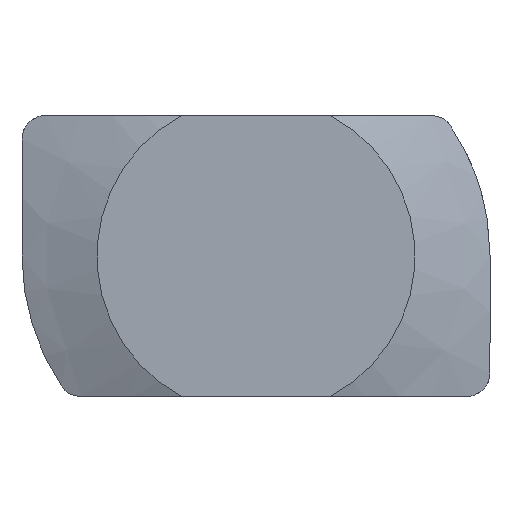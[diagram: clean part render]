
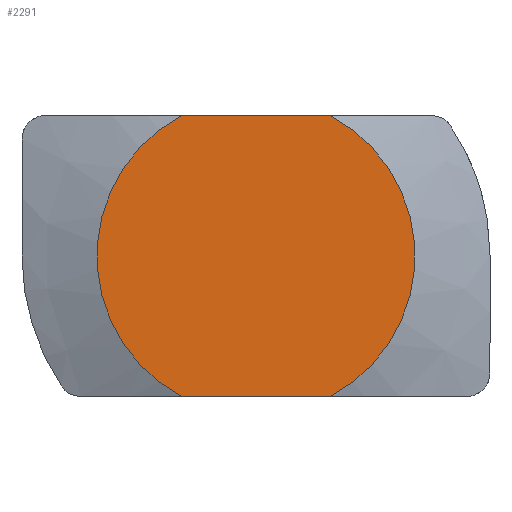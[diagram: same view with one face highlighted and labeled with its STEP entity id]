
A CAD part, front view. The second image highlights one B-rep face of the part: STEP entity #2291.
In plain terms, the highlighted planar face has unit normal (0, -1, 0).
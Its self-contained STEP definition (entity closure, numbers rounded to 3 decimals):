
#24 = CARTESIAN_POINT ( 'NONE',  ( -1.593, 0., 3. ) ) ;
#30 = DIRECTION ( 'NONE',  ( -1., 0., 0. ) ) ;
#103 = EDGE_CURVE ( 'NONE', #278, #3340, #2280, .T. ) ;
#258 = DIRECTION ( 'NONE',  ( 0., 0., 1. ) ) ;
#278 = VERTEX_POINT ( 'NONE', #24 ) ;
#307 = DIRECTION ( 'NONE',  ( 0., 0., 1. ) ) ;
#390 = CARTESIAN_POINT ( 'NONE',  ( -5., 0., -3. ) ) ;
#579 = DIRECTION ( 'NONE',  ( 0., 0., -1. ) ) ;
#617 = DIRECTION ( 'NONE',  ( 0., 1., 0. ) ) ;
#622 = VECTOR ( 'NONE', #1553, 1000. ) ;
#668 = DIRECTION ( 'NONE',  ( 0., 1., 0. ) ) ;
#719 = ORIENTED_EDGE ( 'NONE', *, *, #2247, .F. ) ;
#754 = LINE ( 'NONE', #390, #1020 ) ;
#856 = AXIS2_PLACEMENT_3D ( 'NONE', #981, #617, #258 ) ;
#949 = DIRECTION ( 'NONE',  ( 0., -1., 0. ) ) ;
#981 = CARTESIAN_POINT ( 'NONE',  ( 0., 0., 0. ) ) ;
#1001 = CARTESIAN_POINT ( 'NONE',  ( 1.593, 0., -3. ) ) ;
#1020 = VECTOR ( 'NONE', #30, 1000. ) ;
#1297 = EDGE_LOOP ( 'NONE', ( #719, #3001, #2708, #1707 ) ) ;
#1303 = CARTESIAN_POINT ( 'NONE',  ( 0., 0., 0. ) ) ;
#1468 = AXIS2_PLACEMENT_3D ( 'NONE', #3207, #668, #307 ) ;
#1553 = DIRECTION ( 'NONE',  ( 1., 0., 0. ) ) ;
#1663 = PLANE ( 'NONE',  #2023 ) ;
#1705 = CIRCLE ( 'NONE', #1468, 3.397 ) ;
#1707 = ORIENTED_EDGE ( 'NONE', *, *, #2267, .F. ) ;
#1841 = FACE_OUTER_BOUND ( 'NONE', #1297, .T. ) ;
#1865 = EDGE_CURVE ( 'NONE', #3340, #2063, #2242, .T. ) ;
#1913 = CARTESIAN_POINT ( 'NONE',  ( -5., 0., 3. ) ) ;
#2023 = AXIS2_PLACEMENT_3D ( 'NONE', #1303, #949, #579 ) ;
#2063 = VERTEX_POINT ( 'NONE', #1001 ) ;
#2242 = CIRCLE ( 'NONE', #856, 3.397 ) ;
#2247 = EDGE_CURVE ( 'NONE', #2063, #2472, #754, .T. ) ;
#2267 = EDGE_CURVE ( 'NONE', #2472, #278, #1705, .T. ) ;
#2280 = LINE ( 'NONE', #1913, #622 ) ;
#2291 = ADVANCED_FACE ( 'NONE', ( #1841 ), #1663, .T. ) ;
#2472 = VERTEX_POINT ( 'NONE', #3071 ) ;
#2488 = CARTESIAN_POINT ( 'NONE',  ( 1.593, 0., 3. ) ) ;
#2708 = ORIENTED_EDGE ( 'NONE', *, *, #103, .F. ) ;
#3001 = ORIENTED_EDGE ( 'NONE', *, *, #1865, .F. ) ;
#3071 = CARTESIAN_POINT ( 'NONE',  ( -1.593, 0., -3. ) ) ;
#3207 = CARTESIAN_POINT ( 'NONE',  ( 0., 0., 0. ) ) ;
#3340 = VERTEX_POINT ( 'NONE', #2488 ) ;
